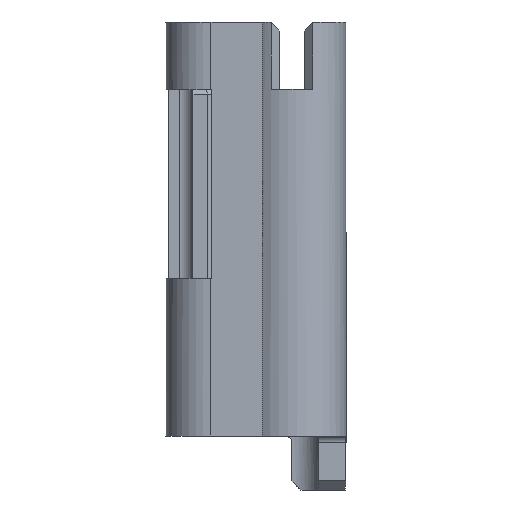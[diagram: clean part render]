
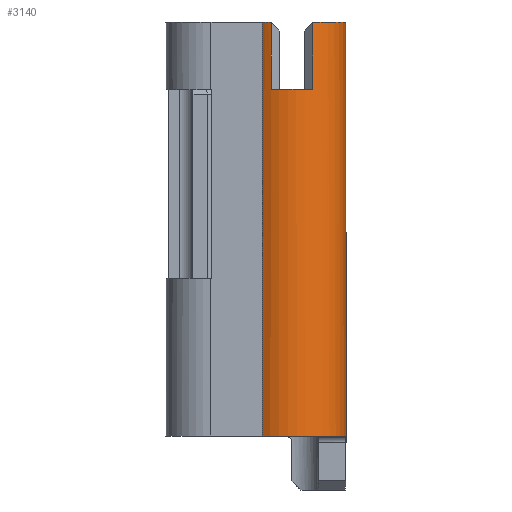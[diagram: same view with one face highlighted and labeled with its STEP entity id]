
A CAD part, front view. The second image highlights one B-rep face of the part: STEP entity #3140.
In plain terms, the highlighted cylindrical face has radius 1.2 mm (diameter 2.4 mm), a partial arc.
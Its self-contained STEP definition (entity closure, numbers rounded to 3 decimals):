
#4 = CARTESIAN_POINT ( 'NONE',  ( 0.459, -1.109, 1.489 ) ) ;
#78 = DIRECTION ( 'NONE',  ( 1., 0., 0. ) ) ;
#176 = CIRCLE ( 'NONE', #1777, 1.2 ) ;
#198 = CARTESIAN_POINT ( 'NONE',  ( 0.459, -1.109, 0. ) ) ;
#201 = VERTEX_POINT ( 'NONE', #198 ) ;
#213 = LINE ( 'NONE', #905, #2215 ) ;
#302 = B_SPLINE_CURVE_WITH_KNOTS ( 'NONE', 3,
 ( #1515, #519, #1528, #2574, #497, #3314, #2550, #3328, #1005, #2539, #1799, #2827, #2313, #726, #2811, #1011 ),
 .UNSPECIFIED., .F., .F.,
 ( 4, 3, 3, 3, 3, 4 ),
 ( 0., 0., 0., 0., 0., 0. ),
 .UNSPECIFIED. ) ;
#344 = CARTESIAN_POINT ( 'NONE',  ( 0., 0., -7.7 ) ) ;
#354 = EDGE_CURVE ( 'NONE', #1822, #1305, #302, .T. ) ;
#415 = CARTESIAN_POINT ( 'NONE',  ( -0.459, -1.109, 1.489 ) ) ;
#418 = EDGE_CURVE ( 'NONE', #1305, #1380, #2219, .T. ) ;
#455 = VECTOR ( 'NONE', #2884, 1000. ) ;
#456 = AXIS2_PLACEMENT_3D ( 'NONE', #861, #1858, #2641 ) ;
#488 = CARTESIAN_POINT ( 'NONE',  ( 1.2, 0., -7.85 ) ) ;
#497 = CARTESIAN_POINT ( 'NONE',  ( 1.197, -0.085, -7.714 ) ) ;
#519 = CARTESIAN_POINT ( 'NONE',  ( 1.193, -0.133, -7.7 ) ) ;
#540 = EDGE_CURVE ( 'NONE', #201, #1789, #2455, .T. ) ;
#557 = ORIENTED_EDGE ( 'NONE', *, *, #418, .T. ) ;
#569 = VECTOR ( 'NONE', #590, 1000. ) ;
#590 = DIRECTION ( 'NONE',  ( 0., 0., 1. ) ) ;
#663 = CARTESIAN_POINT ( 'NONE',  ( 0.47, -1.104, 1.5 ) ) ;
#705 =( BOUNDED_CURVE ( )  B_SPLINE_CURVE ( 3, ( #1541, #2571, #1030, #4 ),
 .UNSPECIFIED., .F., .T. ) 
 B_SPLINE_CURVE_WITH_KNOTS ( ( 4, 4 ),
 ( 1.168, 1.178 ),
 .UNSPECIFIED. ) 
 CURVE ( )  GEOMETRIC_REPRESENTATION_ITEM ( )  RATIONAL_B_SPLINE_CURVE ( ( 1., 1., 1., 1. ) ) 
 REPRESENTATION_ITEM ( '' )  );
#726 = CARTESIAN_POINT ( 'NONE',  ( 1.2, -0.001, -7.827 ) ) ;
#742 = VERTEX_POINT ( 'NONE', #2250 ) ;
#763 =( BOUNDED_CURVE ( )  B_SPLINE_CURVE ( 3, ( #415, #923, #3210, #1977 ),
 .UNSPECIFIED., .F., .F. ) 
 B_SPLINE_CURVE_WITH_KNOTS ( ( 4, 4 ),
 ( 5.105, 5.115 ),
 .UNSPECIFIED. ) 
 CURVE ( )  GEOMETRIC_REPRESENTATION_ITEM ( )  RATIONAL_B_SPLINE_CURVE ( ( 1., 1., 1., 1. ) ) 
 REPRESENTATION_ITEM ( '' )  );
#793 = DIRECTION ( 'NONE',  ( 1., 0., 0. ) ) ;
#821 = EDGE_CURVE ( 'NONE', #2518, #742, #1487, .T. ) ;
#855 = ORIENTED_EDGE ( 'NONE', *, *, #2890, .T. ) ;
#861 = CARTESIAN_POINT ( 'NONE',  ( 0., 0., 1.5 ) ) ;
#905 = CARTESIAN_POINT ( 'NONE',  ( -0.459, -1.109, 0. ) ) ;
#923 = CARTESIAN_POINT ( 'NONE',  ( -0.463, -1.107, 1.493 ) ) ;
#956 = ORIENTED_EDGE ( 'NONE', *, *, #540, .F. ) ;
#1005 = CARTESIAN_POINT ( 'NONE',  ( 1.2, -0.032, -7.756 ) ) ;
#1011 = CARTESIAN_POINT ( 'NONE',  ( 1.2, 0., -7.85 ) ) ;
#1030 = CARTESIAN_POINT ( 'NONE',  ( 0.463, -1.107, 1.493 ) ) ;
#1143 = VERTEX_POINT ( 'NONE', #663 ) ;
#1147 = CARTESIAN_POINT ( 'NONE',  ( -0.459, -1.109, 1.489 ) ) ;
#1203 = CARTESIAN_POINT ( 'NONE',  ( -0.663, -1., -7.7 ) ) ;
#1292 = AXIS2_PLACEMENT_3D ( 'NONE', #344, #2615, #78 ) ;
#1305 = VERTEX_POINT ( 'NONE', #488 ) ;
#1321 = ORIENTED_EDGE ( 'NONE', *, *, #1579, .T. ) ;
#1380 = VERTEX_POINT ( 'NONE', #2819 ) ;
#1434 = ORIENTED_EDGE ( 'NONE', *, *, #1796, .T. ) ;
#1456 = EDGE_CURVE ( 'NONE', #2114, #2241, #763, .T. ) ;
#1462 = ORIENTED_EDGE ( 'NONE', *, *, #2276, .F. ) ;
#1487 = LINE ( 'NONE', #3008, #2093 ) ;
#1507 = DIRECTION ( 'NONE',  ( 0., 0., 1. ) ) ;
#1509 = DIRECTION ( 'NONE',  ( 1., 0., 0. ) ) ;
#1515 = CARTESIAN_POINT ( 'NONE',  ( 1.191, -0.15, -7.7 ) ) ;
#1528 = CARTESIAN_POINT ( 'NONE',  ( 1.194, -0.116, -7.703 ) ) ;
#1531 = CARTESIAN_POINT ( 'NONE',  ( 0.459, -1.109, 1.489 ) ) ;
#1541 = CARTESIAN_POINT ( 'NONE',  ( 0.47, -1.104, 1.5 ) ) ;
#1579 = EDGE_CURVE ( 'NONE', #201, #2950, #2460, .T. ) ;
#1627 = EDGE_CURVE ( 'NONE', #2518, #1822, #176, .T. ) ;
#1684 = DIRECTION ( 'NONE',  ( 0., 0., 1. ) ) ;
#1736 = AXIS2_PLACEMENT_3D ( 'NONE', #2218, #2996, #2229 ) ;
#1757 = EDGE_CURVE ( 'NONE', #742, #2241, #2941, .T. ) ;
#1777 = AXIS2_PLACEMENT_3D ( 'NONE', #3017, #2536, #1509 ) ;
#1789 = VERTEX_POINT ( 'NONE', #1531 ) ;
#1796 = EDGE_CURVE ( 'NONE', #1143, #1789, #705, .T. ) ;
#1797 = ORIENTED_EDGE ( 'NONE', *, *, #1456, .T. ) ;
#1799 = CARTESIAN_POINT ( 'NONE',  ( 1.2, -0.014, -7.784 ) ) ;
#1822 = VERTEX_POINT ( 'NONE', #2082 ) ;
#1848 = AXIS2_PLACEMENT_3D ( 'NONE', #2603, #2058, #793 ) ;
#1858 = DIRECTION ( 'NONE',  ( 0., 0., 1. ) ) ;
#1959 = ORIENTED_EDGE ( 'NONE', *, *, #821, .F. ) ;
#1977 = CARTESIAN_POINT ( 'NONE',  ( -0.47, -1.104, 1.5 ) ) ;
#1993 = CARTESIAN_POINT ( 'NONE',  ( -0.459, -1.109, 0. ) ) ;
#2058 = DIRECTION ( 'NONE',  ( 0., 0., 1. ) ) ;
#2082 = CARTESIAN_POINT ( 'NONE',  ( 1.191, -0.15, -7.7 ) ) ;
#2093 = VECTOR ( 'NONE', #1507, 1000. ) ;
#2113 = ORIENTED_EDGE ( 'NONE', *, *, #1757, .F. ) ;
#2114 = VERTEX_POINT ( 'NONE', #1147 ) ;
#2215 = VECTOR ( 'NONE', #1684, 1000. ) ;
#2218 = CARTESIAN_POINT ( 'NONE',  ( 0., 0., 0. ) ) ;
#2219 = LINE ( 'NONE', #2851, #455 ) ;
#2229 = DIRECTION ( 'NONE',  ( 1., 0., 0. ) ) ;
#2241 = VERTEX_POINT ( 'NONE', #3094 ) ;
#2250 = CARTESIAN_POINT ( 'NONE',  ( -0.663, -1., 1.5 ) ) ;
#2273 = ORIENTED_EDGE ( 'NONE', *, *, #354, .T. ) ;
#2276 = EDGE_CURVE ( 'NONE', #1143, #1380, #2985, .T. ) ;
#2313 = CARTESIAN_POINT ( 'NONE',  ( 1.2, -0.004, -7.816 ) ) ;
#2378 = CARTESIAN_POINT ( 'NONE',  ( 0.459, -1.109, 0. ) ) ;
#2455 = LINE ( 'NONE', #2378, #569 ) ;
#2460 = CIRCLE ( 'NONE', #1736, 1.2 ) ;
#2518 = VERTEX_POINT ( 'NONE', #1203 ) ;
#2536 = DIRECTION ( 'NONE',  ( 0., 0., 1. ) ) ;
#2539 = CARTESIAN_POINT ( 'NONE',  ( 1.2, -0.023, -7.77 ) ) ;
#2550 = CARTESIAN_POINT ( 'NONE',  ( 1.199, -0.057, -7.733 ) ) ;
#2571 = CARTESIAN_POINT ( 'NONE',  ( 0.466, -1.106, 1.496 ) ) ;
#2574 = CARTESIAN_POINT ( 'NONE',  ( 1.196, -0.101, -7.708 ) ) ;
#2591 = ORIENTED_EDGE ( 'NONE', *, *, #1627, .T. ) ;
#2603 = CARTESIAN_POINT ( 'NONE',  ( 0., 0., 1.5 ) ) ;
#2615 = DIRECTION ( 'NONE',  ( 0., 0., 1. ) ) ;
#2641 = DIRECTION ( 'NONE',  ( 1., 0., 0. ) ) ;
#2793 = EDGE_LOOP ( 'NONE', ( #2273, #557, #1462, #1434, #956, #1321, #855, #1797, #2113, #1959, #2591 ) ) ;
#2811 = CARTESIAN_POINT ( 'NONE',  ( 1.2, 0., -7.839 ) ) ;
#2819 = CARTESIAN_POINT ( 'NONE',  ( 1.2, 0., 1.5 ) ) ;
#2827 = CARTESIAN_POINT ( 'NONE',  ( 1.2, -0.008, -7.8 ) ) ;
#2851 = CARTESIAN_POINT ( 'NONE',  ( 1.2, 0., -7.7 ) ) ;
#2884 = DIRECTION ( 'NONE',  ( 0., 0., 1. ) ) ;
#2890 = EDGE_CURVE ( 'NONE', #2950, #2114, #213, .T. ) ;
#2921 = FACE_OUTER_BOUND ( 'NONE', #2793, .T. ) ;
#2941 = CIRCLE ( 'NONE', #1848, 1.2 ) ;
#2950 = VERTEX_POINT ( 'NONE', #1993 ) ;
#2985 = CIRCLE ( 'NONE', #456, 1.2 ) ;
#2996 = DIRECTION ( 'NONE',  ( 0., 0., -1. ) ) ;
#3007 = CYLINDRICAL_SURFACE ( 'NONE', #1292, 1.2 ) ;
#3008 = CARTESIAN_POINT ( 'NONE',  ( -0.663, -1., -7.7 ) ) ;
#3017 = CARTESIAN_POINT ( 'NONE',  ( 0., 0., -7.7 ) ) ;
#3094 = CARTESIAN_POINT ( 'NONE',  ( -0.47, -1.104, 1.5 ) ) ;
#3140 = ADVANCED_FACE ( 'NONE', ( #2921 ), #3007, .T. ) ;
#3210 = CARTESIAN_POINT ( 'NONE',  ( -0.466, -1.106, 1.496 ) ) ;
#3314 = CARTESIAN_POINT ( 'NONE',  ( 1.198, -0.07, -7.722 ) ) ;
#3328 = CARTESIAN_POINT ( 'NONE',  ( 1.199, -0.044, -7.743 ) ) ;
